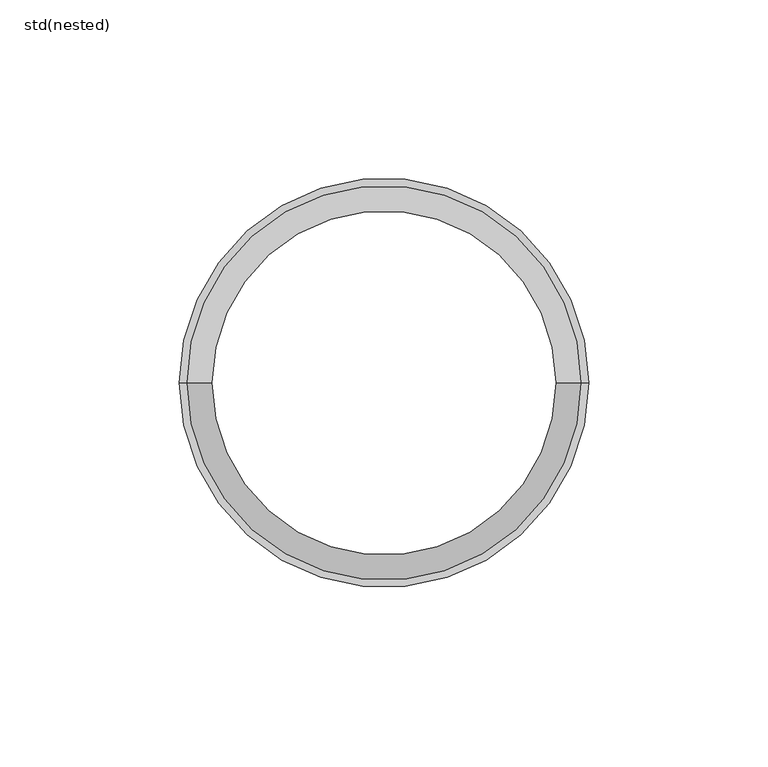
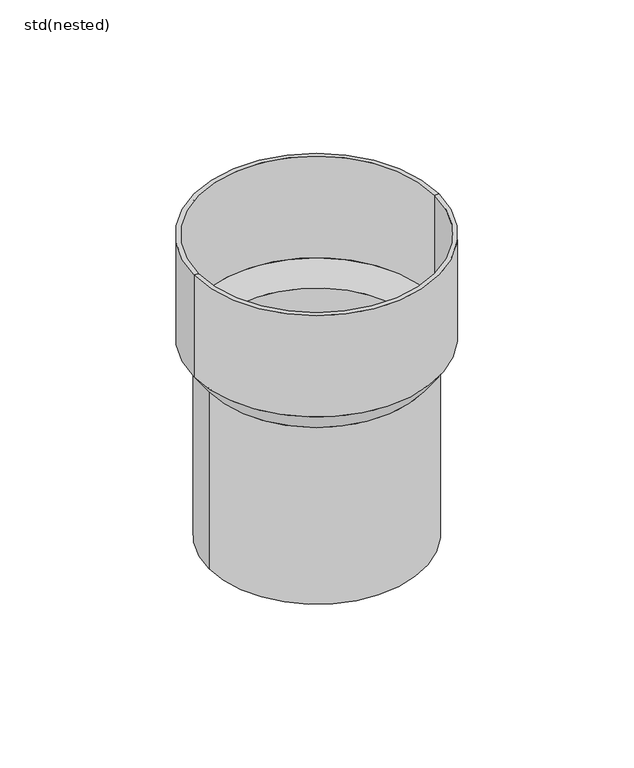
"""IFC4 building model written with IfcOpenShell, lengths in millimetres: sanitary terminal geometry, ZZZ_do not use_PF_ST_WPB_PVC collar_ACO : std(nested)."""

from ifc_helpers import new_model, si_unit, frame, origin, place, context, project, spatial, polyline, circle_curve, source, transform, mapped, element, save
from ifc_brep_helpers import plane_surface, cylinder_surface, revolved_surface, advanced_brep


def std_nested_53d527f1(model_context):
    return source(origin(), model_context, "Body", "AdvancedBrep", [
        advanced_brep(
        [(57.0, 0.0, 0.0), (-57.0, 0.0, 0.0), (-55.0, 0.0, 0.0), (55.0, 0.0, 0.0), (57.0, 0.0, -50.0), (-57.0, 0.0, -50.0), (-55.0, 0.0, -50.0), (55.0, 0.0, -50.0), (50.0, 0.0, -60.0), (-50.0, 0.0, -60.0), (50.0, 0.0, -147.0), (-50.0, 0.0, -147.0), (48.0, 0.0, -147.0), (-48.0, 0.0, -147.0), (48.0, 0.0, -60.0), (-48.0, 0.0, -60.0)],
        [
            (0, 1, circle_curve(frame((0.0, 0.0, 0.0), z_axis=(0.0, 0.0, 1.0), x_axis=(-1.0, 0.0, 0.0)), 57.0)),
            (1, 2),
            (2, 3, circle_curve(frame((0.0, 0.0, 0.0), z_axis=(0.0, 0.0, -1.0), x_axis=(-1.0, 0.0, 0.0)), 55.0)),
            (3, 0),
            (1, 0, circle_curve(frame((0.0, 0.0, 0.0), z_axis=(0.0, 0.0, 1.0), x_axis=(-1.0, 0.0, 0.0)), 57.0)),
            (3, 2, circle_curve(frame((0.0, 0.0, 0.0), z_axis=(0.0, 0.0, -1.0), x_axis=(-1.0, 0.0, 0.0)), 55.0)),
            (4, 5, circle_curve(frame((0.0, 0.0, -50.0), z_axis=(0.0, 0.0, 1.0), x_axis=(-1.0, 0.0, 0.0)), 57.0)),
            (5, 1),
            (0, 4),
            (5, 4, circle_curve(frame((0.0, 0.0, -50.0), z_axis=(0.0, 0.0, 1.0), x_axis=(-1.0, 0.0, 0.0)), 57.0)),
            (2, 6),
            (6, 7, circle_curve(frame((0.0, 0.0, -50.0), z_axis=(0.0, 0.0, -1.0), x_axis=(-1.0, 0.0, 0.0)), 55.0)),
            (7, 3),
            (7, 6, circle_curve(frame((0.0, 0.0, -50.0), z_axis=(0.0, 0.0, -1.0), x_axis=(-1.0, 0.0, 0.0)), 55.0)),
            (8, 9, circle_curve(frame((0.0, 0.0, -60.0), z_axis=(0.0, 0.0, 1.0), x_axis=(-1.0, 0.0, 0.0)), 50.0)),
            (9, 5),
            (4, 8),
            (9, 8, circle_curve(frame((0.0, 0.0, -60.0), z_axis=(0.0, 0.0, 1.0), x_axis=(-1.0, 0.0, 0.0)), 50.0)),
            (10, 11, circle_curve(frame((0.0, 0.0, -147.0), z_axis=(0.0, 0.0, 1.0), x_axis=(-1.0, 0.0, 0.0)), 50.0)),
            (11, 9),
            (8, 10),
            (11, 10, circle_curve(frame((0.0, 0.0, -147.0), z_axis=(0.0, 0.0, 1.0), x_axis=(-1.0, 0.0, 0.0)), 50.0)),
            (12, 13, circle_curve(frame((0.0, 0.0, -147.0), z_axis=(0.0, 0.0, 1.0), x_axis=(-1.0, 0.0, 0.0)), 48.0)),
            (13, 11),
            (10, 12),
            (13, 12, circle_curve(frame((0.0, 0.0, -147.0), z_axis=(0.0, 0.0, 1.0), x_axis=(-1.0, 0.0, 0.0)), 48.0)),
            (14, 15, circle_curve(frame((0.0, 0.0, -60.0), z_axis=(0.0, 0.0, 1.0), x_axis=(-1.0, 0.0, 0.0)), 48.0)),
            (15, 13),
            (12, 14),
            (15, 14, circle_curve(frame((0.0, 0.0, -60.0), z_axis=(0.0, 0.0, 1.0), x_axis=(-1.0, 0.0, 0.0)), 48.0)),
            (6, 15),
            (14, 7),
        ],
        [
            plane_surface(frame((0.0, 0.0, 0.0), z_axis=(0.0, 0.0, 1.0), x_axis=(-1.0, 0.0, 0.0))),
            cylinder_surface(frame((0.0, 0.0, 87.5115211), z_axis=(0.0, 0.0, -1.0), x_axis=(-1.0, 0.0, 0.0)), 57.0),
            revolved_surface(polyline([(-55.0, 0.0, -49.999999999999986), (-55.0, 0.0, 0.0)]), (0.0, 0.0, 87.5115211), (0.0, 0.0, -1.0)),
            revolved_surface(polyline([(-57.0, 0.0, -50.0), (-50.0, 0.0, -60.0)]), (0.0, 0.0, 87.5115211), (0.0, 0.0, -1.0)),
            cylinder_surface(frame((0.0, 0.0, 87.5115211), z_axis=(0.0, 0.0, -1.0), x_axis=(-1.0, 0.0, 0.0)), 50.0),
            plane_surface(frame((0.0, 0.0, -147.0), z_axis=(0.0, 0.0, -1.0), x_axis=(-1.0, 0.0, 0.0))),
            revolved_surface(polyline([(-48.0, 0.0, -147.0), (-48.0, 0.0, -59.999999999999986)]), (0.0, 0.0, 87.5115211), (0.0, 0.0, -1.0)),
            revolved_surface(polyline([(-48.0, 0.0, -60.0), (-55.0, 0.0, -50.0)]), (0.0, 0.0, 87.5115211), (0.0, 0.0, -1.0)),
        ],
        [
            (0, [[1, 2, 3, 4]]),
            (0, [[5, -4, 6, -2]]),
            (1, [[7, 8, -1, 9]]),
            (1, [[10, -9, -5, -8]]),
            (2, [[-3, 11, 12, 13]]),
            (2, [[-6, -13, 14, -11]]),
            (3, [[15, 16, -7, 17]]),
            (3, [[18, -17, -10, -16]]),
            (4, [[19, 20, -15, 21]]),
            (4, [[22, -21, -18, -20]]),
            (5, [[23, 24, -19, 25]]),
            (5, [[26, -25, -22, -24]]),
            (6, [[27, 28, -23, 29]]),
            (6, [[30, -29, -26, -28]]),
            (7, [[-12, 31, -27, 32]]),
            (7, [[-14, -32, -30, -31]]),
        ],
    ),
    ])


if __name__ == "__main__":
    model = new_model("IFC4")
    model_context = context("Model", 3, world=origin())
    ifc_project = project(units=[si_unit("LENGTHUNIT", "METRE", prefix="MILLI")], contexts=[model_context])
    site = spatial("IfcSite", under=ifc_project)
    building = spatial("IfcBuilding", under=site)
    placement = place(None, origin())
    std_nested_shape = std_nested_53d527f1(model_context)
    element("IfcSanitaryTerminal", 1, ObjectType="ZZZ_do not use_PF_ST_WPB_PVC collar_ACO : std(nested)", at=placement, inside=building, context=model_context, shape_type="MappedRepresentation", body=[
        mapped(std_nested_shape, transform((0.0, 0.0, 0.0), x_axis=(1.0, 0.0, 0.0), y_axis=(0.0, 1.0, 0.0), z_axis=(0.0, 0.0, 1.0))),
    ])
    save(model, "model.ifc")
